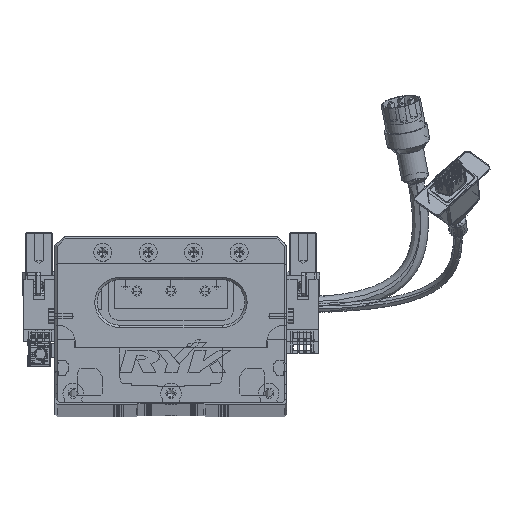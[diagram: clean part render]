
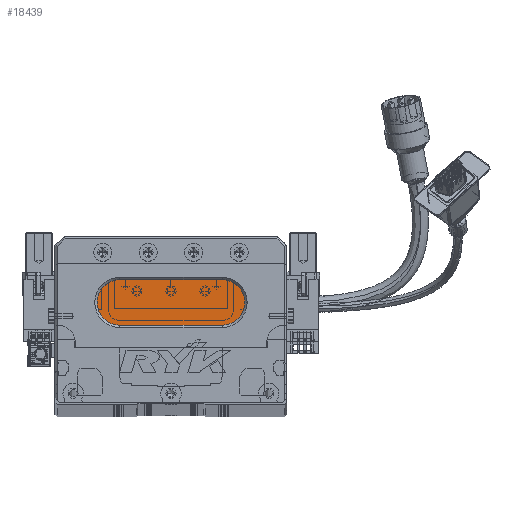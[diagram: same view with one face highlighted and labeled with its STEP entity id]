
A CAD part, top view. The second image highlights one B-rep face of the part: STEP entity #18439.
In plain terms, the highlighted planar face has unit normal (0, 0, 1) as drawn and (0, 0, -1) by its records, which use the part's own axes.
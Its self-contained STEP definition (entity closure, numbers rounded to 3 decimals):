
#3022 = CARTESIAN_POINT ( 'NONE',  ( 28.5, 54., 13. ) ) ;
#5364 = CARTESIAN_POINT ( 'NONE',  ( 28.5, 44., 13. ) ) ;
#9276 = AXIS2_PLACEMENT_3D ( 'NONE', #75660, #19005, #47133 ) ;
#9741 = DIRECTION ( 'NONE',  ( -1., 0., 0. ) ) ;
#9916 = DIRECTION ( 'NONE',  ( -1., 0., 0. ) ) ;
#11862 = DIRECTION ( 'NONE',  ( 0., 0., -1. ) ) ;
#16491 = CARTESIAN_POINT ( 'NONE',  ( 73.5, 34., 13. ) ) ;
#18222 = VERTEX_POINT ( 'NONE', #3022 ) ;
#18439 = ADVANCED_FACE ( 'NONE', ( #65590 ), #33570, .T. ) ;
#19005 = DIRECTION ( 'NONE',  ( 0., 0., -1. ) ) ;
#19693 = VERTEX_POINT ( 'NONE', #34831 ) ;
#20797 = EDGE_CURVE ( 'NONE', #76981, #63614, #22482, .T. ) ;
#20920 = ORIENTED_EDGE ( 'NONE', *, *, #58905, .T. ) ;
#22259 = VECTOR ( 'NONE', #9741, 1000. ) ;
#22482 = CIRCLE ( 'NONE', #9276, 10. ) ;
#23470 = LINE ( 'NONE', #82108, #58518 ) ;
#26701 = AXIS2_PLACEMENT_3D ( 'NONE', #82241, #11862, #81634 ) ;
#28738 = DIRECTION ( 'NONE',  ( 1., 0., 0. ) ) ;
#29545 = CARTESIAN_POINT ( 'NONE',  ( 73.5, 44., 13. ) ) ;
#30149 = CIRCLE ( 'NONE', #77203, 10. ) ;
#33023 = EDGE_CURVE ( 'NONE', #63614, #18222, #62913, .T. ) ;
#33570 = PLANE ( 'NONE',  #26701 ) ;
#34831 = CARTESIAN_POINT ( 'NONE',  ( 73.5, 54., 13. ) ) ;
#42611 = CARTESIAN_POINT ( 'NONE',  ( 28.5, 34., 13. ) ) ;
#46702 = EDGE_LOOP ( 'NONE', ( #61570, #20920, #80137, #71437, #74914 ) ) ;
#47133 = DIRECTION ( 'NONE',  ( -1., 0., 0. ) ) ;
#47847 = DIRECTION ( 'NONE',  ( -1., 0., 0. ) ) ;
#48887 = CARTESIAN_POINT ( 'NONE',  ( 73.5, 34., 13. ) ) ;
#49340 = AXIS2_PLACEMENT_3D ( 'NONE', #5364, #75770, #47847 ) ;
#56323 = CARTESIAN_POINT ( 'NONE',  ( 18.5, 44., 13. ) ) ;
#56999 = EDGE_CURVE ( 'NONE', #18222, #19693, #23470, .T. ) ;
#58518 = VECTOR ( 'NONE', #28738, 1000. ) ;
#58905 = EDGE_CURVE ( 'NONE', #67439, #76981, #82513, .T. ) ;
#61570 = ORIENTED_EDGE ( 'NONE', *, *, #81121, .T. ) ;
#62913 = CIRCLE ( 'NONE', #49340, 10. ) ;
#63614 = VERTEX_POINT ( 'NONE', #56323 ) ;
#65590 = FACE_OUTER_BOUND ( 'NONE', #46702, .T. ) ;
#67439 = VERTEX_POINT ( 'NONE', #48887 ) ;
#71437 = ORIENTED_EDGE ( 'NONE', *, *, #33023, .T. ) ;
#74914 = ORIENTED_EDGE ( 'NONE', *, *, #56999, .T. ) ;
#75660 = CARTESIAN_POINT ( 'NONE',  ( 28.5, 44., 13. ) ) ;
#75770 = DIRECTION ( 'NONE',  ( 0., 0., -1. ) ) ;
#76981 = VERTEX_POINT ( 'NONE', #42611 ) ;
#77203 = AXIS2_PLACEMENT_3D ( 'NONE', #29545, #86749, #9916 ) ;
#80137 = ORIENTED_EDGE ( 'NONE', *, *, #20797, .T. ) ;
#81121 = EDGE_CURVE ( 'NONE', #19693, #67439, #30149, .T. ) ;
#81634 = DIRECTION ( 'NONE',  ( -1., 0., 0. ) ) ;
#82108 = CARTESIAN_POINT ( 'NONE',  ( 73.5, 54., 13. ) ) ;
#82241 = CARTESIAN_POINT ( 'NONE',  ( 73.5, 44., 13. ) ) ;
#82513 = LINE ( 'NONE', #16491, #22259 ) ;
#86749 = DIRECTION ( 'NONE',  ( 0., 0., -1. ) ) ;
